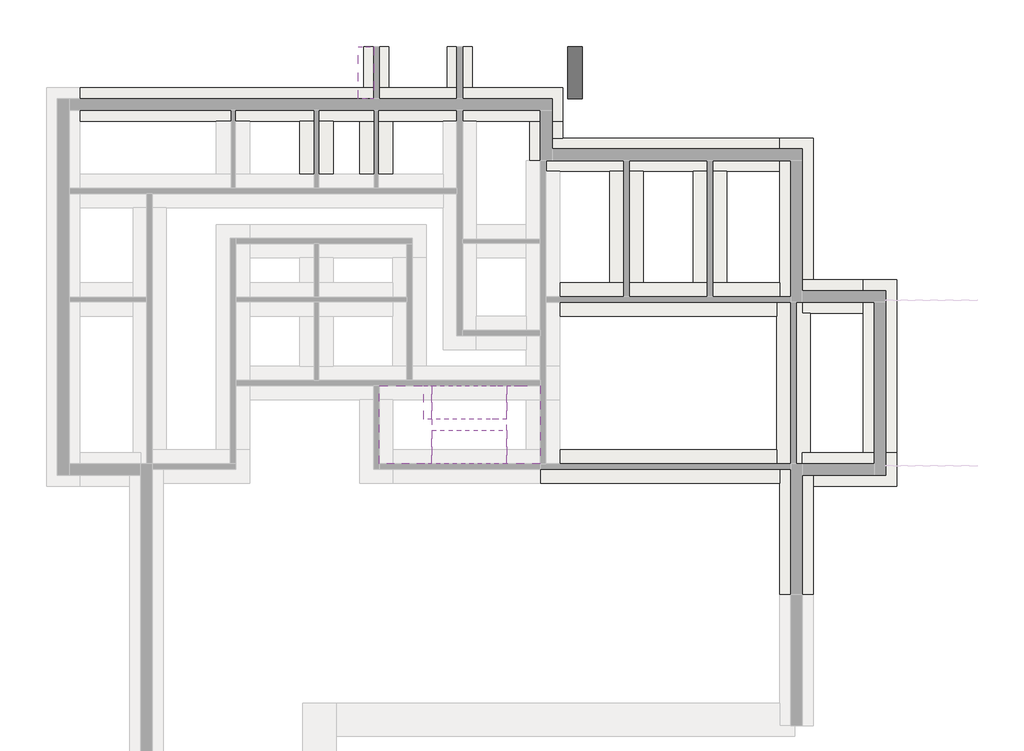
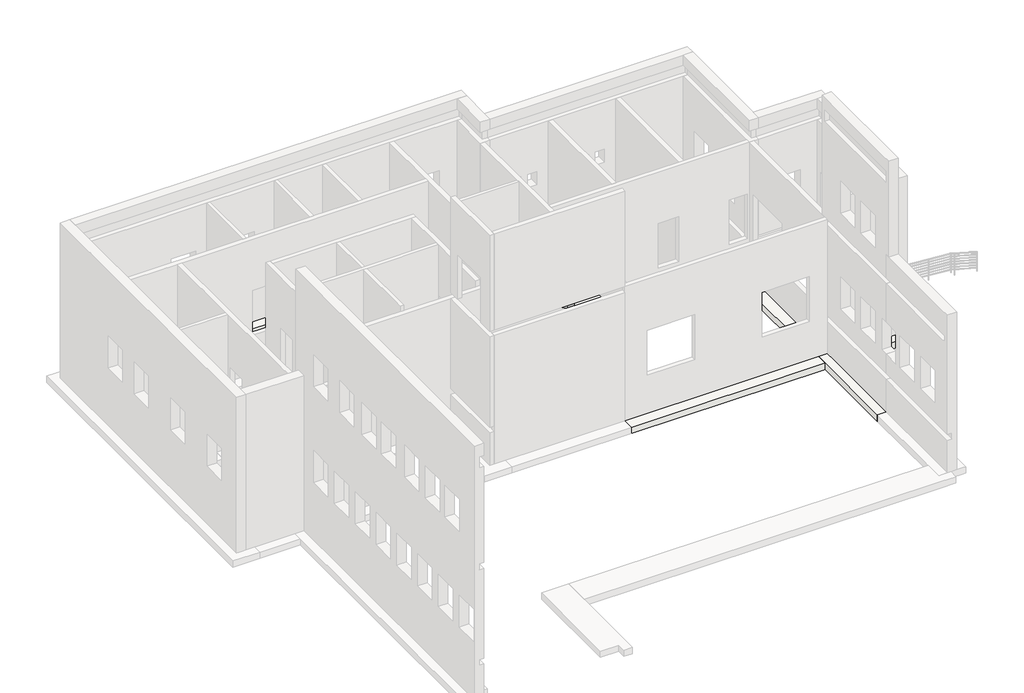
# One storey, part 4 of 5: 17 footings, 4 stair flights, 2 slabs, 1 ramp.
"""IFC4 building model written with IfcOpenShell, lengths in millimetres."""

from ifc_helpers import new_model, si_unit, frame, origin, place, context, project, spatial, polyline, outline, extrude, faceted_brep, transform, mapped, element, save
from components import ramp_f884092f

model = new_model("IFC4")

# Units and contexts
model_context = context("Model", 3, world=origin())
ifc_project = project(units=[si_unit("LENGTHUNIT", "METRE", prefix="MILLI")], contexts=[model_context])

# Site, building, storey
site = spatial("IfcSite", under=ifc_project)
building = spatial("IfcBuilding", under=site)
storey = spatial("IfcBuildingStorey", under=building, Name="Фундамент", Elevation=-1800.0)

# Footings
placement = place(None, origin())
element("IfcFooting", 1, ObjectType="Опорная пята - 1200 x 300", at=placement, inside=storey, context=model_context, shape_type="Brep", body=[
    faceted_brep([(8252.7882356, 5792.3976828, -1800.0), (9062.7882356, 5792.3976828, -1800.0), (9452.7882356, 5792.3976828, -1800.0), (9452.7882356, 5792.3976828, -2100.0), (9062.7882356, 5792.3976828, -2100.0), (8252.7882356, 5792.3976828, -2100.0), (9452.7882356, 1082.3976828, -1800.0), (8252.7882356, 1082.3976828, -1800.0), (8252.7882356, 1082.3976828, -2100.0), (9452.7882356, 1082.3976828, -2100.0), (8252.7882356, 5092.3976828, -1800.0), (9452.7882356, 4982.3976828, -1800.0), (9452.7882356, 4982.3976828, -2100.0), (8252.7882356, 5092.3976828, -2100.0)], [[[0, 1, 2, 3, 4, 5]], [[6, 7, 8, 9]], [[0, 10, 7, 6, 11, 2, 1]], [[3, 2, 11, 6, 9, 12]], [[5, 4, 3, 12, 9, 8, 13]], [[0, 5, 13, 8, 7, 10]]]),
])
element("IfcFooting", 2, ObjectType="Опорная пята - 1200 x 300", at=placement, inside=storey, context=model_context, shape_type="Brep", body=[
    faceted_brep([(9062.7882356, 6182.3976828, -1800.0), (9062.7882356, 6182.3976828, -2100.0), (9062.7882356, 5792.3976828, -2100.0), (9062.7882356, 5792.3976828, -1800.0), (12452.7882356, 6182.3976828, -1800.0), (11252.7882356, 6182.3976828, -1800.0), (9342.7882356, 6182.3976828, -1800.0), (9452.7882356, 5792.3976828, -1800.0), (9452.7882356, 4982.3976828, -1800.0), (12452.7882356, 4982.3976828, -1800.0), (12452.7882356, 4982.3976828, -2100.0), (9452.7882356, 4982.3976828, -2100.0), (9342.7882356, 6182.3976828, -2100.0), (11252.7882356, 6182.3976828, -2100.0), (12452.7882356, 6182.3976828, -2100.0), (9452.7882356, 5792.3976828, -2100.0)], [[[0, 1, 2, 3]], [[4, 5, 6, 0, 3, 7, 8, 9]], [[10, 9, 8, 11]], [[1, 12, 13, 14, 10, 11, 15, 2]], [[1, 0, 6, 5, 4, 14, 13, 12]], [[7, 15, 11, 8]], [[4, 9, 10, 14]], [[15, 7, 3, 2]]]),
])
element("IfcFooting", 3, ObjectType="Опорная пята - 1200 x 300", at=placement, inside=storey, context=model_context, shape_type="Brep", body=[
    faceted_brep([(12452.7882356, 12402.3976828, -1800.0), (11252.7882356, 12402.3976828, -1800.0), (11252.7882356, 11202.3976828, -1800.0), (11252.7882356, 6182.3976828, -1800.0), (12452.7882356, 6182.3976828, -1800.0), (12452.7882356, 12402.3976828, -2100.0), (12452.7882356, 6182.3976828, -2100.0), (11252.7882356, 12402.3976828, -2100.0), (11252.7882356, 6182.3976828, -2100.0), (11252.7882356, 11202.3976828, -2100.0)], [[[0, 1, 2, 3, 4]], [[5, 0, 4, 6]], [[7, 5, 6, 8, 9]], [[1, 7, 9, 8, 3, 2]], [[4, 3, 8, 6]], [[1, 0, 5, 7]]]),
])
element("IfcFooting", 4, ObjectType="Опорная пята - 1200 x 300", at=placement, inside=storey, context=model_context, shape_type="Brep", body=[
    faceted_brep([(9062.7882356, 12402.3976828, -1800.0), (9062.7882356, 12402.3976828, -2100.0), (9062.7882356, 11592.3976828, -2100.0), (9062.7882356, 11202.3976828, -2100.0), (9062.7882356, 11202.3976828, -1800.0), (9062.7882356, 11592.3976828, -1800.0), (9342.7882356, 11202.3976828, -1800.0), (11252.7882356, 11202.3976828, -1800.0), (11252.7882356, 12402.3976828, -1800.0), (9452.7882356, 12402.3976828, -1800.0), (11252.7882356, 12402.3976828, -2100.0), (9452.7882356, 12402.3976828, -2100.0), (11252.7882356, 11202.3976828, -2100.0), (9342.7882356, 11202.3976828, -2100.0)], [[[0, 1, 2, 3, 4, 5]], [[0, 5, 4, 6, 7, 8, 9]], [[1, 0, 9, 8, 10, 11]], [[3, 2, 1, 11, 10, 12, 13]], [[4, 3, 13, 12, 7, 6]], [[8, 7, 12, 10]]]),
])
element("IfcFooting", 5, ObjectType="Опорная пята - 1200 x 300", at=placement, inside=storey, context=model_context, shape_type="Brep", body=[
    faceted_brep([(8252.7882356, 11592.3976828, -1800.0), (8252.7882356, 11592.3976828, -2100.0), (9062.7882356, 11592.3976828, -2100.0), (9062.7882356, 11592.3976828, -1800.0), (8252.7882356, 17502.3976828, -1800.0), (8252.7882356, 16302.3976828, -1800.0), (8252.7882356, 12292.3976828, -1800.0), (9062.7882356, 12402.3976828, -1800.0), (9452.7882356, 12402.3976828, -1800.0), (9452.7882356, 17502.3976828, -1800.0), (9452.7882356, 17502.3976828, -2100.0), (9452.7882356, 12402.3976828, -2100.0), (8252.7882356, 12292.3976828, -2100.0), (8252.7882356, 16302.3976828, -2100.0), (8252.7882356, 17502.3976828, -2100.0), (9062.7882356, 12402.3976828, -2100.0)], [[[0, 1, 2, 3]], [[4, 5, 6, 0, 3, 7, 8, 9]], [[10, 9, 8, 11]], [[1, 12, 13, 14, 10, 11, 15, 2]], [[1, 0, 6, 5, 4, 14, 13, 12]], [[7, 15, 11, 8]], [[4, 9, 10, 14]], [[15, 7, 3, 2]]]),
])
element("IfcFooting", 6, ObjectType="Опорная пята - 1200 x 300", at=placement, inside=storey, context=model_context, shape_type="Brep", body=[
    faceted_brep([(-147.2117644, 16902.3976828, -1800.0), (-149.2724245, 16692.3976828, -1800.0), (-153.0993647, 16302.3976828, -1800.0), (342.7882356, 16302.3976828, -1800.0), (2142.7882356, 16302.3976828, -1800.0), (3342.7882356, 16302.3976828, -1800.0), (5142.7882356, 16302.3976828, -1800.0), (6342.7882356, 16302.3976828, -1800.0), (8252.7882356, 16302.3976828, -1800.0), (8252.7882356, 17502.3976828, -1800.0), (452.7882356, 17502.3976828, -1800.0), (-147.2117644, 17502.3976828, -1800.0), (-147.2117644, 17502.3976828, -2100.0), (8252.7882356, 17502.3976828, -2100.0), (452.7882356, 17502.3976828, -2100.0), (-147.2117644, 16902.3976828, -2100.0), (8252.7882356, 16302.3976828, -2100.0), (6342.7882356, 16302.3976828, -2100.0), (5142.7882356, 16302.3976828, -2100.0), (3342.7882356, 16302.3976828, -2100.0), (2142.7882356, 16302.3976828, -2100.0), (342.7882356, 16302.3976828, -2100.0), (-153.0993647, 16302.3976828, -2100.0), (-149.2724245, 16692.3976828, -2100.0)], [[[0, 1, 2, 3, 4, 5, 6, 7, 8, 9, 10, 11]], [[12, 11, 10, 9, 13, 14]], [[15, 12, 14, 13, 16, 17, 18, 19, 20, 21, 22, 23]], [[2, 22, 21, 20, 19, 18, 17, 16, 8, 7, 6, 5, 4, 3]], [[9, 8, 16, 13]], [[22, 2, 1, 0, 15, 23]], [[11, 12, 15, 0]]]),
])
element("IfcFooting", 7, ObjectType="Опорная пята - 1200 x 300", at=placement, inside=storey, context=model_context, shape_type="Brep", body=[
    faceted_brep([(452.7882356, 18102.3976828, -1800.0), (452.7882356, 19302.3976828, -1800.0), (-2807.2117644, 19302.3976828, -1800.0), (-3707.2117644, 19302.3976828, -1800.0), (-5807.2117644, 19302.3976828, -1800.0), (-6707.2117644, 19302.3976828, -1800.0), (-16917.2117644, 19302.3976828, -1800.0), (-16917.2117644, 18102.3976828, -1800.0), (-12007.2117644, 18102.3976828, -1800.0), (-10807.2117644, 18102.3976828, -1800.0), (-9007.2117644, 18102.3976828, -1800.0), (-7807.2117644, 18102.3976828, -1800.0), (-6857.2117644, 18102.3976828, -1800.0), (-5657.2117644, 18102.3976828, -1800.0), (-3857.2117644, 18102.3976828, -1800.0), (-2657.2117644, 18102.3976828, -1800.0), (-747.2117644, 18102.3976828, -1800.0), (452.7882356, 19302.3976828, -2100.0), (-2807.2117644, 19302.3976828, -2100.0), (-3707.2117644, 19302.3976828, -2100.0), (-5807.2117644, 19302.3976828, -2100.0), (-6707.2117644, 19302.3976828, -2100.0), (-16917.2117644, 19302.3976828, -2100.0), (452.7882356, 18102.3976828, -2100.0), (-747.2117644, 18102.3976828, -2100.0), (-2657.2117644, 18102.3976828, -2100.0), (-3857.2117644, 18102.3976828, -2100.0), (-5657.2117644, 18102.3976828, -2100.0), (-6857.2117644, 18102.3976828, -2100.0), (-7807.2117644, 18102.3976828, -2100.0), (-9007.2117644, 18102.3976828, -2100.0), (-10807.2117644, 18102.3976828, -2100.0), (-12007.2117644, 18102.3976828, -2100.0), (-16917.2117644, 18102.3976828, -2100.0)], [[[0, 1, 2, 3, 4, 5, 6, 7, 8, 9, 10, 11, 12, 13, 14, 15, 16]], [[1, 17, 18, 19, 20, 21, 22, 6, 5, 4, 3, 2]], [[17, 23, 24, 25, 26, 27, 28, 29, 30, 31, 32, 33, 22, 21, 20, 19, 18]], [[23, 0, 16, 15, 14, 13, 12, 11, 10, 9, 8, 7, 33, 32, 31, 30, 29, 28, 27, 26, 25, 24]], [[1, 0, 23, 17]], [[7, 6, 22, 33]]]),
])
element("IfcFooting", 8, ObjectType="Опорная пята - 1200 x 300", at=placement, inside=storey, context=model_context, shape_type="SweptSolid", body=[
    extrude(outline(polyline([(-149.2724245, 16692.3976828), (-747.2117644, 16692.3976828), (-747.2117644, 18102.3976828), (452.7882356, 18102.3976828), (452.7882356, 17502.3976828), (-147.2117644, 17502.3976828), (-147.2117644, 16902.3976828), (-149.2724245, 16692.3976828)])), frame((0.0, 0.0, -2100.0), z_axis=(0.0, 0.0, 1.0), x_axis=(1.0, 0.0, 0.0)), (0.0, 0.0, 1.0), 300.0),
])
element("IfcFooting", 9, ObjectType="Опорная пята - 1200 x 300", at=placement, inside=storey, context=model_context, shape_type="Brep", body=[
    faceted_brep([(8142.7882356, 5792.3976828, -1800.0), (8142.7882356, 5792.3976828, -2100.0), (8252.7882356, 5792.3976828, -2100.0), (9062.7882356, 5792.3976828, -2100.0), (9062.7882356, 5792.3976828, -1800.0), (8252.7882356, 5792.3976828, -1800.0), (8142.7882356, 11592.3976828, -2100.0), (8142.7882356, 11592.3976828, -1800.0), (8252.7882356, 11592.3976828, -1800.0), (9062.7882356, 11592.3976828, -1800.0), (9062.7882356, 11592.3976828, -2100.0), (8252.7882356, 11592.3976828, -2100.0), (8142.7882356, 11092.3976828, -1800.0), (8142.7882356, 6292.3976828, -1800.0), (9062.7882356, 6182.3976828, -1800.0), (9342.7882356, 6182.3976828, -1800.0), (9342.7882356, 11202.3976828, -1800.0), (9062.7882356, 11202.3976828, -1800.0), (8142.7882356, 11092.3976828, -2100.0), (8142.7882356, 6292.3976828, -2100.0), (9062.7882356, 11202.3976828, -2100.0), (9342.7882356, 11202.3976828, -2100.0), (9342.7882356, 6182.3976828, -2100.0), (9062.7882356, 6182.3976828, -2100.0)], [[[0, 1, 2, 3, 4, 5]], [[6, 7, 8, 9, 10, 11]], [[7, 12, 13, 0, 5, 4, 14, 15, 16, 17, 9, 8]], [[1, 0, 13, 12, 7, 6, 18, 19]], [[1, 19, 18, 6, 11, 10, 20, 21, 22, 23, 3, 2]], [[15, 22, 21, 16]], [[23, 14, 4, 3]], [[14, 23, 22, 15]], [[17, 20, 10, 9]], [[20, 17, 16, 21]]]),
])
element("IfcFooting", 10, ObjectType="Опорная пята - 1200 x 300", at=placement, inside=storey, context=model_context, shape_type="Brep", body=[
    faceted_brep([(342.7882356, 12292.3976828, -1800.0), (342.7882356, 11092.3976828, -1800.0), (8142.7882356, 11092.3976828, -1800.0), (8142.7882356, 11592.3976828, -1800.0), (8252.7882356, 11592.3976828, -1800.0), (8252.7882356, 12292.3976828, -1800.0), (6342.7882356, 12292.3976828, -1800.0), (5142.7882356, 12292.3976828, -1800.0), (3342.7882356, 12292.3976828, -1800.0), (2142.7882356, 12292.3976828, -1800.0), (342.7882356, 12292.3976828, -2100.0), (8252.7882356, 12292.3976828, -2100.0), (6342.7882356, 12292.3976828, -2100.0), (5142.7882356, 12292.3976828, -2100.0), (3342.7882356, 12292.3976828, -2100.0), (2142.7882356, 12292.3976828, -2100.0), (342.7882356, 11092.3976828, -2100.0), (8252.7882356, 11592.3976828, -2100.0), (8142.7882356, 11592.3976828, -2100.0), (8142.7882356, 11092.3976828, -2100.0)], [[[0, 1, 2, 3, 4, 5, 6, 7, 8, 9]], [[10, 0, 9, 8, 7, 6, 5, 11, 12, 13, 14, 15]], [[16, 10, 15, 14, 13, 12, 11, 17, 18, 19]], [[1, 16, 19, 2]], [[1, 0, 10, 16]], [[5, 4, 17, 11]], [[3, 18, 17, 4]], [[18, 3, 2, 19]]]),
])
element("IfcFooting", 11, ObjectType="Опорная пята - 1200 x 300", at=placement, inside=storey, context=model_context, shape_type="SweptSolid", body=[
    extrude(outline(polyline([(5142.7882356, 16302.3976828), (6342.7882356, 16302.3976828), (6342.7882356, 12292.3976828), (5142.7882356, 12292.3976828), (5142.7882356, 16302.3976828)])), frame((0.0, 0.0, -2100.0), z_axis=(0.0, 0.0, 1.0), x_axis=(1.0, 0.0, 0.0)), (0.0, 0.0, 1.0), 300.0),
])
element("IfcFooting", 12, ObjectType="Опорная пята - 1200 x 300", at=placement, inside=storey, context=model_context, shape_type="SweptSolid", body=[
    extrude(outline(polyline([(2142.7882356, 16302.3976828), (3342.7882356, 16302.3976828), (3342.7882356, 12292.3976828), (2142.7882356, 12292.3976828), (2142.7882356, 16302.3976828)])), frame((0.0, 0.0, -2100.0), z_axis=(0.0, 0.0, 1.0), x_axis=(1.0, 0.0, 0.0)), (0.0, 0.0, 1.0), 300.0),
])
element("IfcFooting", 13, ObjectType="Опорная пята - 1200 x 300", at=placement, inside=storey, context=model_context, shape_type="SweptSolid", body=[
    extrude(outline(polyline([(-9007.2117644, 18102.3976828), (-7807.2117644, 18102.3976828), (-7807.2117644, 16192.3976828), (-9007.2117644, 16192.3976828), (-9007.2117644, 18102.3976828)])), frame((0.0, 0.0, -2100.0), z_axis=(0.0, 0.0, 1.0), x_axis=(1.0, 0.0, 0.0)), (0.0, 0.0, 1.0), 300.0),
])
element("IfcFooting", 14, ObjectType="Опорная пята - 1200 x 300", at=placement, inside=storey, context=model_context, shape_type="SweptSolid", body=[
    extrude(outline(polyline([(-6857.2117644, 18102.3976828), (-5657.2117644, 18102.3976828), (-5657.2117644, 16192.3976828), (-6857.2117644, 16192.3976828), (-6857.2117644, 18102.3976828)])), frame((0.0, 0.0, -2100.0), z_axis=(0.0, 0.0, 1.0), x_axis=(1.0, 0.0, 0.0)), (0.0, 0.0, 1.0), 300.0),
])
element("IfcFooting", 15, ObjectType="Опорная пята - 1200 x 300", at=placement, inside=storey, context=model_context, shape_type="SweptSolid", body=[
    extrude(outline(polyline([(8252.7882356, 5092.3976828), (-357.2117644, 5092.3976828), (-357.2117644, 5792.3976828), (342.7882356, 5792.3976828), (342.7882356, 6292.3976828), (8142.7882356, 6292.3976828), (8142.7882356, 5792.3976828), (8252.7882356, 5792.3976828), (8252.7882356, 5092.3976828)])), frame((0.0, 0.0, -2100.0), z_axis=(0.0, 0.0, 1.0), x_axis=(1.0, 0.0, 0.0)), (0.0, 0.0, 1.0), 300.0),
])
element("IfcFooting", 16, ObjectType="Опорная пята - 900 x 300", at=placement, inside=storey, context=model_context, shape_type="SweptSolid", body=[
    extrude(outline(polyline([(-3707.2117644, 20792.3976828), (-2807.2117644, 20792.3976828), (-2807.2117644, 19302.3976828), (-3707.2117644, 19302.3976828), (-3707.2117644, 20792.3976828)])), frame((0.0, 0.0, -2100.0), z_axis=(0.0, 0.0, 1.0), x_axis=(1.0, 0.0, 0.0)), (0.0, 0.0, 1.0), 300.0),
])
element("IfcFooting", 17, ObjectType="Опорная пята - 900 x 300", at=placement, inside=storey, context=model_context, shape_type="SweptSolid", body=[
    extrude(outline(polyline([(-6707.2117644, 20792.3976828), (-5807.2117644, 20792.3976828), (-5807.2117644, 19302.3976828), (-6707.2117644, 19302.3976828), (-6707.2117644, 20792.3976828)])), frame((0.0, 0.0, -2100.0), z_axis=(0.0, 0.0, 1.0), x_axis=(1.0, 0.0, 0.0)), (0.0, 0.0, 1.0), 300.0),
])

# Ramp
ramp_shape = ramp_f884092f(model_context)
element("IfcRamp", 18, ObjectType="Пандус 1", at=placement, inside=storey, context=model_context, shape_type="MappedRepresentation", body=[
    mapped(ramp_shape, transform((0.0, 0.0, 0.0), x_axis=(1.0, 0.0, 0.0), y_axis=(0.0, 1.0, 0.0), z_axis=(0.0, 0.0, 1.0))),
])

# Slabs
element("IfcSlab", 19, ObjectType="Толщина 300 мм", at=placement, inside=storey, context=model_context, shape_type="Brep", body=[
    faceted_brep([(-4257.2117644, 7392.3976828, 1430.0), (-4257.2117644, 8592.3976828, 1430.0), (-4292.621961, 8592.3976828, 1430.0), (-6157.2117644, 8592.3976828, 1430.0), (-6157.2117644, 5792.3976828, 1430.0), (-4521.8015678, 5792.3976828, 1430.0), (-4257.2117644, 5792.3976828, 1430.0), (-4257.2117644, 6992.3976828, 1430.0), (-4257.2117644, 7392.3976828, 1130.0), (-4257.2117644, 7392.3976828, 1112.2949017), (-4257.2117644, 8592.3976828, 1112.2949017), (-4257.2117644, 8592.3976828, 1280.0), (-4292.621961, 8592.3976828, 1130.0), (-6157.2117644, 8592.3976828, 1130.0), (-6157.2117644, 5792.3976828, 1130.0), (-4521.8015678, 5792.3976828, 1130.0), (-4257.2117644, 5792.3976828, 1262.2949017), (-4257.2117644, 6992.3976828, 1262.2949017), (-4257.2117644, 6992.3976828, 1130.0), (-4521.8015678, 6992.3976828, 1130.0), (-4292.621961, 7392.3976828, 1130.0)], [[[0, 1, 2, 3, 4, 5, 6, 7]], [[1, 0, 8, 9, 10, 11]], [[1, 11, 10, 12, 13, 3, 2]], [[4, 3, 13, 14]], [[4, 14, 15, 16, 6, 5]], [[7, 6, 16, 17]], [[0, 7, 17, 18, 8]], [[18, 19, 15, 14, 13, 12, 20, 8]], [[19, 18, 17]], [[20, 12, 10, 9]], [[8, 20, 9]], [[15, 19, 17, 16]]]),
])
element("IfcSlab", 20, ObjectType="Толщина 300 мм", at=placement, inside=storey, context=model_context, shape_type="Brep", body=[
    faceted_brep([(-1557.2117644, 6992.3976828, 2930.0), (-1557.2117644, 5792.3976828, 2930.0), (-1521.8015678, 5792.3976828, 2930.0), (-357.2117644, 5792.3976828, 2930.0), (-357.2117644, 8592.3976828, 2930.0), (-1292.621961, 8592.3976828, 2930.0), (-1557.2117644, 8592.3976828, 2930.0), (-1557.2117644, 7392.3976828, 2930.0), (-1557.2117644, 6992.3976828, 2630.0), (-1557.2117644, 6992.3976828, 2612.2949017), (-1557.2117644, 5792.3976828, 2612.2949017), (-1557.2117644, 5792.3976828, 2780.0), (-1521.8015678, 5792.3976828, 2630.0), (-357.2117644, 5792.3976828, 2630.0), (-357.2117644, 8592.3976828, 2630.0), (-1292.621961, 8592.3976828, 2630.0), (-1557.2117644, 8592.3976828, 2762.2949017), (-1557.2117644, 7392.3976828, 2762.2949017), (-1557.2117644, 7392.3976828, 2630.0), (-1292.621961, 7392.3976828, 2630.0), (-1521.8015678, 6992.3976828, 2630.0)], [[[0, 1, 2, 3, 4, 5, 6, 7]], [[1, 0, 8, 9, 10, 11]], [[1, 11, 10, 12, 13, 3, 2]], [[4, 3, 13, 14]], [[4, 14, 15, 16, 6, 5]], [[7, 6, 16, 17]], [[0, 7, 17, 18, 8]], [[18, 19, 15, 14, 13, 12, 20, 8]], [[19, 18, 17]], [[20, 12, 10, 9]], [[8, 20, 9]], [[15, 19, 17, 16]]]),
])

# Stair flights
element("IfcStairFlight", 21, ObjectType="Глубина 150 мм", at=placement, inside=storey, context=model_context, shape_type="Brep", body=[
    faceted_brep([(-1857.2117644, 7392.3976828, 80.0), (-1557.2117644, 7392.3976828, 80.0), (-1557.2117644, 8592.3976828, 80.0), (-1857.2117644, 8592.3976828, 80.0), (-1857.2117644, 7392.3976828, -70.0), (-1557.2117644, 7392.3976828, -70.0), (-1557.2117644, 7392.3976828, 0.0), (-1557.2117644, 8592.3976828, -70.0), (-1557.2117644, 8592.3976828, 0.0), (-1857.2117644, 8592.3976828, -70.0), (-2157.2117644, 7392.3976828, 230.0), (-1857.2117644, 7392.3976828, 230.0), (-1857.2117644, 8592.3976828, 230.0), (-2157.2117644, 8592.3976828, 230.0), (-2157.2117644, 7392.3976828, 62.2949017), (-2032.621961, 7392.3976828, 0.0), (-1892.621961, 7392.3976828, -70.0), (-1892.621961, 8592.3976828, -70.0), (-2032.621961, 8592.3976828, 0.0), (-2157.2117644, 8592.3976828, 62.2949017), (-2457.2117644, 7392.3976828, 380.0), (-2157.2117644, 7392.3976828, 380.0), (-2157.2117644, 8592.3976828, 380.0), (-2457.2117644, 8592.3976828, 380.0), (-2457.2117644, 7392.3976828, 212.2949017), (-2457.2117644, 8592.3976828, 212.2949017), (-2757.2117644, 7392.3976828, 530.0), (-2457.2117644, 7392.3976828, 530.0), (-2457.2117644, 8592.3976828, 530.0), (-2757.2117644, 8592.3976828, 530.0), (-2757.2117644, 7392.3976828, 362.2949017), (-2757.2117644, 8592.3976828, 362.2949017), (-3057.2117644, 7392.3976828, 680.0), (-2757.2117644, 7392.3976828, 680.0), (-2757.2117644, 8592.3976828, 680.0), (-3057.2117644, 8592.3976828, 680.0), (-3057.2117644, 7392.3976828, 512.2949017), (-3057.2117644, 8592.3976828, 512.2949017), (-3357.2117644, 7392.3976828, 830.0), (-3057.2117644, 7392.3976828, 830.0), (-3057.2117644, 8592.3976828, 830.0), (-3357.2117644, 8592.3976828, 830.0), (-3357.2117644, 7392.3976828, 662.2949017), (-3357.2117644, 8592.3976828, 662.2949017), (-3657.2117644, 7392.3976828, 980.0), (-3357.2117644, 7392.3976828, 980.0), (-3357.2117644, 8592.3976828, 980.0), (-3657.2117644, 8592.3976828, 980.0), (-3657.2117644, 7392.3976828, 812.2949017), (-3657.2117644, 8592.3976828, 812.2949017), (-3957.2117644, 7392.3976828, 1130.0), (-3657.2117644, 7392.3976828, 1130.0), (-3657.2117644, 8592.3976828, 1130.0), (-3957.2117644, 8592.3976828, 1130.0), (-3957.2117644, 7392.3976828, 962.2949017), (-3957.2117644, 8592.3976828, 962.2949017), (-4257.2117644, 7392.3976828, 1280.0), (-3957.2117644, 7392.3976828, 1280.0), (-3957.2117644, 8592.3976828, 1280.0), (-4257.2117644, 8592.3976828, 1280.0), (-4257.2117644, 7392.3976828, 1130.0), (-4257.2117644, 7392.3976828, 1112.2949017), (-4257.2117644, 8592.3976828, 1112.2949017)], [[[0, 1, 2, 3]], [[1, 0, 4, 5, 6]], [[2, 1, 6, 5, 7, 8]], [[3, 2, 8, 7, 9]], [[10, 11, 12, 13]], [[4, 0, 11, 10, 14, 15, 16]], [[0, 3, 12, 11]], [[3, 9, 17, 18, 19, 13, 12]], [[20, 21, 22, 23]], [[21, 20, 24, 14, 10]], [[10, 13, 22, 21]], [[23, 22, 13, 19, 25]], [[26, 27, 28, 29]], [[27, 26, 30, 24, 20]], [[20, 23, 28, 27]], [[29, 28, 23, 25, 31]], [[32, 33, 34, 35]], [[33, 32, 36, 30, 26]], [[26, 29, 34, 33]], [[35, 34, 29, 31, 37]], [[38, 39, 40, 41]], [[39, 38, 42, 36, 32]], [[32, 35, 40, 39]], [[41, 40, 35, 37, 43]], [[44, 45, 46, 47]], [[45, 44, 48, 42, 38]], [[38, 41, 46, 45]], [[47, 46, 41, 43, 49]], [[50, 51, 52, 53]], [[51, 50, 54, 48, 44]], [[44, 47, 52, 51]], [[53, 52, 47, 49, 55]], [[56, 57, 58, 59]], [[57, 56, 60, 61, 54, 50]], [[50, 53, 58, 57]], [[59, 58, 53, 55, 62]], [[56, 59, 62, 61, 60]], [[5, 4, 16, 17, 9, 7]], [[17, 16, 15, 14, 24, 30, 36, 42, 48, 54, 61, 62, 55, 49, 43, 37, 31, 25, 19, 18]]]),
])
element("IfcStairFlight", 22, ObjectType="Глубина 150 мм", at=placement, inside=storey, context=model_context, shape_type="Brep", body=[
    faceted_brep([(-3957.2117644, 6992.3976828, 1580.0), (-4257.2117644, 6992.3976828, 1580.0), (-4257.2117644, 5792.3976828, 1580.0), (-3957.2117644, 5792.3976828, 1580.0), (-3957.2117644, 6992.3976828, 1412.2949017), (-4257.2117644, 6992.3976828, 1262.2949017), (-4257.2117644, 5792.3976828, 1262.2949017), (-4257.2117644, 5792.3976828, 1430.0), (-3957.2117644, 5792.3976828, 1412.2949017), (-3657.2117644, 6992.3976828, 1730.0), (-3957.2117644, 6992.3976828, 1730.0), (-3957.2117644, 5792.3976828, 1730.0), (-3657.2117644, 5792.3976828, 1730.0), (-3657.2117644, 6992.3976828, 1562.2949017), (-3657.2117644, 5792.3976828, 1562.2949017), (-3357.2117644, 6992.3976828, 1880.0), (-3657.2117644, 6992.3976828, 1880.0), (-3657.2117644, 5792.3976828, 1880.0), (-3357.2117644, 5792.3976828, 1880.0), (-3357.2117644, 6992.3976828, 1712.2949017), (-3357.2117644, 5792.3976828, 1712.2949017), (-3057.2117644, 6992.3976828, 2030.0), (-3357.2117644, 6992.3976828, 2030.0), (-3357.2117644, 5792.3976828, 2030.0), (-3057.2117644, 5792.3976828, 2030.0), (-3057.2117644, 6992.3976828, 1862.2949017), (-3057.2117644, 5792.3976828, 1862.2949017), (-2757.2117644, 6992.3976828, 2180.0), (-3057.2117644, 6992.3976828, 2180.0), (-3057.2117644, 5792.3976828, 2180.0), (-2757.2117644, 5792.3976828, 2180.0), (-2757.2117644, 6992.3976828, 2012.2949017), (-2757.2117644, 5792.3976828, 2012.2949017), (-2457.2117644, 6992.3976828, 2330.0), (-2757.2117644, 6992.3976828, 2330.0), (-2757.2117644, 5792.3976828, 2330.0), (-2457.2117644, 5792.3976828, 2330.0), (-2457.2117644, 6992.3976828, 2162.2949017), (-2457.2117644, 5792.3976828, 2162.2949017), (-2157.2117644, 6992.3976828, 2480.0), (-2457.2117644, 6992.3976828, 2480.0), (-2457.2117644, 5792.3976828, 2480.0), (-2157.2117644, 5792.3976828, 2480.0), (-2157.2117644, 6992.3976828, 2312.2949017), (-2157.2117644, 5792.3976828, 2312.2949017), (-1857.2117644, 6992.3976828, 2630.0), (-2157.2117644, 6992.3976828, 2630.0), (-2157.2117644, 5792.3976828, 2630.0), (-1857.2117644, 5792.3976828, 2630.0), (-1857.2117644, 6992.3976828, 2462.2949017), (-1857.2117644, 5792.3976828, 2462.2949017), (-1557.2117644, 6992.3976828, 2780.0), (-1857.2117644, 6992.3976828, 2780.0), (-1857.2117644, 5792.3976828, 2780.0), (-1557.2117644, 5792.3976828, 2780.0), (-1557.2117644, 6992.3976828, 2630.0), (-1557.2117644, 6992.3976828, 2612.2949017), (-1557.2117644, 5792.3976828, 2612.2949017)], [[[0, 1, 2, 3]], [[1, 0, 4, 5]], [[2, 1, 5, 6, 7]], [[3, 2, 7, 6, 8]], [[9, 10, 11, 12]], [[10, 9, 13, 4, 0]], [[11, 10, 0, 3]], [[12, 11, 3, 8, 14]], [[15, 16, 17, 18]], [[16, 15, 19, 13, 9]], [[17, 16, 9, 12]], [[18, 17, 12, 14, 20]], [[21, 22, 23, 24]], [[22, 21, 25, 19, 15]], [[23, 22, 15, 18]], [[24, 23, 18, 20, 26]], [[27, 28, 29, 30]], [[28, 27, 31, 25, 21]], [[29, 28, 21, 24]], [[30, 29, 24, 26, 32]], [[33, 34, 35, 36]], [[34, 33, 37, 31, 27]], [[35, 34, 27, 30]], [[36, 35, 30, 32, 38]], [[39, 40, 41, 42]], [[40, 39, 43, 37, 33]], [[41, 40, 33, 36]], [[42, 41, 36, 38, 44]], [[45, 46, 47, 48]], [[46, 45, 49, 43, 39]], [[47, 46, 39, 42]], [[48, 47, 42, 44, 50]], [[51, 52, 53, 54]], [[52, 51, 55, 56, 49, 45]], [[53, 52, 45, 48]], [[54, 53, 48, 50, 57]], [[51, 54, 57, 56, 55]], [[5, 4, 13, 19, 25, 31, 37, 43, 49, 56, 57, 50, 44, 38, 32, 26, 20, 14, 8, 6]]]),
])
element("IfcStairFlight", 23, ObjectType="Глубина 150 мм", at=placement, inside=storey, context=model_context, shape_type="Brep", body=[
    faceted_brep([(-1857.2117644, 7392.3976828, 3080.0), (-1557.2117644, 7392.3976828, 3080.0), (-1557.2117644, 8592.3976828, 3080.0), (-1857.2117644, 8592.3976828, 3080.0), (-1857.2117644, 7392.3976828, 2912.2949017), (-1557.2117644, 7392.3976828, 2762.2949017), (-1557.2117644, 8592.3976828, 2762.2949017), (-1557.2117644, 8592.3976828, 2930.0), (-1857.2117644, 8592.3976828, 2912.2949017), (-2157.2117644, 7392.3976828, 3230.0), (-1857.2117644, 7392.3976828, 3230.0), (-1857.2117644, 8592.3976828, 3230.0), (-2157.2117644, 8592.3976828, 3230.0), (-2157.2117644, 7392.3976828, 3062.2949017), (-2157.2117644, 8592.3976828, 3062.2949017), (-2457.2117644, 7392.3976828, 3380.0), (-2157.2117644, 7392.3976828, 3380.0), (-2157.2117644, 8592.3976828, 3380.0), (-2457.2117644, 8592.3976828, 3380.0), (-2457.2117644, 7392.3976828, 3212.2949017), (-2457.2117644, 8592.3976828, 3212.2949017), (-2757.2117644, 7392.3976828, 3530.0), (-2457.2117644, 7392.3976828, 3530.0), (-2457.2117644, 8592.3976828, 3530.0), (-2757.2117644, 8592.3976828, 3530.0), (-2757.2117644, 7392.3976828, 3362.2949017), (-2757.2117644, 8592.3976828, 3362.2949017), (-3057.2117644, 7392.3976828, 3680.0), (-2757.2117644, 7392.3976828, 3680.0), (-2757.2117644, 8592.3976828, 3680.0), (-3057.2117644, 8592.3976828, 3680.0), (-3057.2117644, 7392.3976828, 3512.2949017), (-3057.2117644, 8592.3976828, 3512.2949017), (-3357.2117644, 7392.3976828, 3830.0), (-3057.2117644, 7392.3976828, 3830.0), (-3057.2117644, 8592.3976828, 3830.0), (-3357.2117644, 8592.3976828, 3830.0), (-3357.2117644, 7392.3976828, 3662.2949017), (-3357.2117644, 8592.3976828, 3662.2949017), (-3657.2117644, 7392.3976828, 3980.0), (-3357.2117644, 7392.3976828, 3980.0), (-3357.2117644, 8592.3976828, 3980.0), (-3657.2117644, 8592.3976828, 3980.0), (-3657.2117644, 7392.3976828, 3812.2949017), (-3657.2117644, 8592.3976828, 3812.2949017), (-3957.2117644, 7392.3976828, 4130.0), (-3657.2117644, 7392.3976828, 4130.0), (-3657.2117644, 8592.3976828, 4130.0), (-3957.2117644, 8592.3976828, 4130.0), (-3957.2117644, 7392.3976828, 3962.2949017), (-3957.2117644, 8592.3976828, 3962.2949017), (-4257.2117644, 7392.3976828, 4280.0), (-3957.2117644, 7392.3976828, 4280.0), (-3957.2117644, 8592.3976828, 4280.0), (-4257.2117644, 8592.3976828, 4280.0), (-4257.2117644, 7392.3976828, 4112.2949017), (-4257.2117644, 8592.3976828, 4112.2949017), (-4557.2117644, 7392.3976828, 4262.2949017), (-4557.2117644, 8592.3976828, 4262.2949017), (-4557.2117644, 7392.3976828, 4430.0), (-4257.2117644, 7392.3976828, 4430.0), (-4257.2117644, 8592.3976828, 4430.0), (-4557.2117644, 8592.3976828, 4430.0)], [[[0, 1, 2, 3]], [[1, 0, 4, 5]], [[2, 1, 5, 6, 7]], [[3, 2, 7, 6, 8]], [[9, 10, 11, 12]], [[10, 9, 13, 4, 0]], [[11, 10, 0, 3]], [[12, 11, 3, 8, 14]], [[15, 16, 17, 18]], [[16, 15, 19, 13, 9]], [[17, 16, 9, 12]], [[18, 17, 12, 14, 20]], [[21, 22, 23, 24]], [[22, 21, 25, 19, 15]], [[23, 22, 15, 18]], [[24, 23, 18, 20, 26]], [[27, 28, 29, 30]], [[28, 27, 31, 25, 21]], [[29, 28, 21, 24]], [[30, 29, 24, 26, 32]], [[33, 34, 35, 36]], [[34, 33, 37, 31, 27]], [[35, 34, 27, 30]], [[36, 35, 30, 32, 38]], [[39, 40, 41, 42]], [[40, 39, 43, 37, 33]], [[41, 40, 33, 36]], [[42, 41, 36, 38, 44]], [[45, 46, 47, 48]], [[46, 45, 49, 43, 39]], [[47, 46, 39, 42]], [[48, 47, 42, 44, 50]], [[51, 52, 53, 54]], [[52, 51, 55, 49, 45]], [[53, 52, 45, 48]], [[54, 53, 48, 50, 56]], [[5, 4, 13, 19, 25, 31, 37, 43, 49, 55, 57, 58, 56, 50, 44, 38, 32, 26, 20, 14, 8, 6]], [[59, 60, 61, 62]], [[60, 59, 57, 55, 51]], [[61, 60, 51, 54]], [[62, 61, 54, 56, 58]], [[59, 62, 58, 57]]]),
])
element("IfcStairFlight", 24, ObjectType="Глубина 150 мм", at=placement, inside=storey, context=model_context, shape_type="Brep", body=[
    faceted_brep([(-6632.2117644, 20792.3976828, -356.6666667), (-6907.2117644, 20792.3976828, -356.6666667), (-6907.2117644, 18912.3976828, -356.6666667), (-6632.2117644, 18912.3976828, -356.6666667), (-6632.2117644, 20792.3976828, -500.0), (-6907.2117644, 20792.3976828, -500.0), (-6907.2117644, 18912.3976828, -500.0), (-6632.2117644, 18912.3976828, -500.0), (-6357.2117644, 20792.3976828, -213.3333333), (-6632.2117644, 20792.3976828, -213.3333333), (-6632.2117644, 18912.3976828, -213.3333333), (-6357.2117644, 18912.3976828, -213.3333333), (-6357.2117644, 20792.3976828, -382.4853262), (-6582.6759641, 20792.3976828, -500.0), (-6582.6759641, 18912.3976828, -500.0), (-6357.2117644, 18912.3976828, -382.4853262)], [[[0, 1, 2, 3]], [[1, 0, 4, 5]], [[2, 1, 5, 6]], [[3, 2, 6, 7]], [[8, 9, 10, 11]], [[4, 0, 9, 8, 12, 13]], [[0, 3, 10, 9]], [[3, 7, 14, 15, 11, 10]], [[8, 11, 15, 12]], [[5, 4, 13, 14, 7, 6]], [[14, 13, 12, 15]]]),
])

save(model, "model.ifc")
